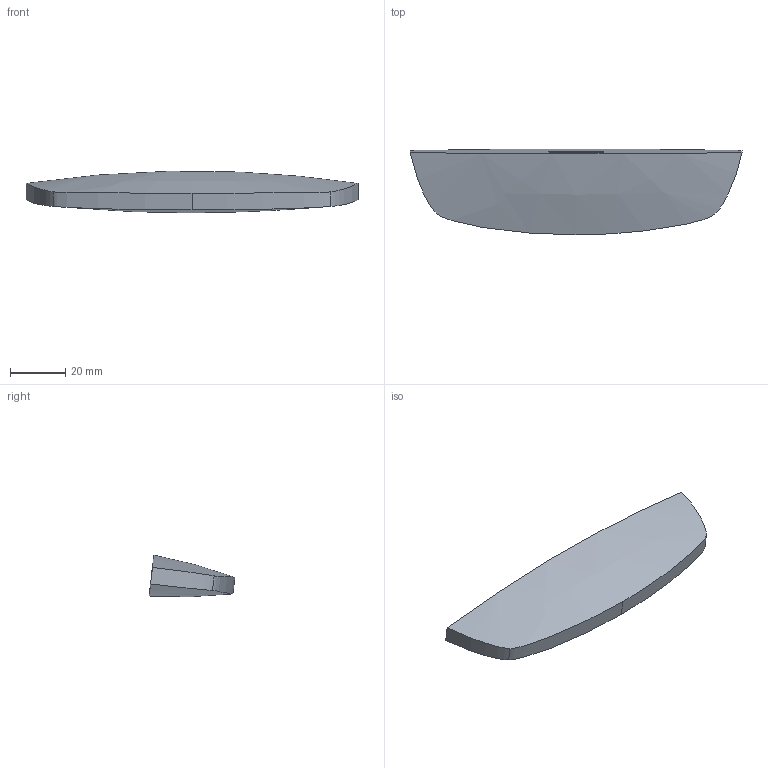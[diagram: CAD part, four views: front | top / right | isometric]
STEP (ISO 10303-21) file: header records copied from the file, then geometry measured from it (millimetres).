
FILE_DESCRIPTION(('Open CASCADE Model'),'2;1');
FILE_NAME('Open CASCADE Shape Model','2026-10-14T17:01:32',('Author'),( 'Open CASCADE'),'Open CASCADE STEP processor 7.8','Open CASCADE 7.8' ,'Unknown');
FILE_SCHEMA(('AUTOMOTIVE_DESIGN { 1 0 10303 214 1 1 1 1 }'));
Length unit declared in the file: millimetre
Products named in the file (1): Open CASCADE STEP translator 7.8 4
Bounding box: 120 x 31.03 x 14.97 mm (x, y, z)
Volume: 30060.9 mm3; surface area: 8536.9 mm2
Topology: 1 solids, 1 shells, 16 faces, 39 edges, 26 vertices
Faces by surface type: bspline 15, cylinder 1
Entity records: 3119 total; most frequent: CARTESIAN_POINT 2534, B_SPLINE_CURVE_WITH_KNOTS 91, ORIENTED_EDGE 78, PCURVE 78, DEFINITIONAL_REPRESENTATION 78, EDGE_CURVE 39, SURFACE_CURVE 39, DIRECTION 28
